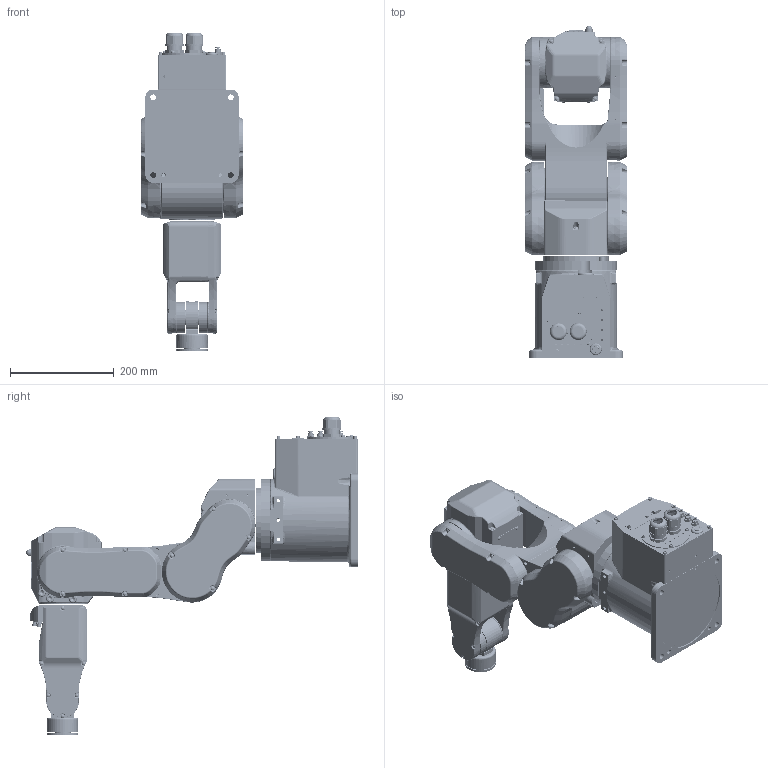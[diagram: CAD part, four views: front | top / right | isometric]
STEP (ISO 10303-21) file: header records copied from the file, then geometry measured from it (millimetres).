
FILE_DESCRIPTION((''),'2;1');
FILE_NAME('C4-A600S_ASM','2012-09-07T',('0179539'),(''),'PRO/ENGINEER BY PARAMETRIC TECHNOLOGY CORPORATION, 2007390','PRO/ENGINEER BY PARAMETRIC TECHNOLOGY CORPORATION, 2007390','');
FILE_SCHEMA(('AUTOMOTIVE_DESIGN_CC2 { 1 2 10303 214 -1 1 5 2 }'));
Products named in the file (8): C4_BASE; C4_J1; C4_J2; C4_J3; C4_J5; C4_J6; C4_J4; C4-A600S_ASM
Assembly tree (7 placements, depth 2):
  C4-A600S_ASM
    C4_BASE
    C4_J1
    C4_J2
    C4_J3
    C4_J5
    C4_J6
    C4_J4
Bounding box: 198 x 640.5 x 614.5 mm (x, y, z)
Volume: 7950411.5 mm3; surface area: 1344572.4 mm2
Topology: 7 solids, 11 shells, 5008 faces, 11865 edges, 7138 vertices
Faces by surface type: cylinder 1725, plane 1627, bspline 640, torus 468, cone 406, sphere 141, extrusion 1
Entity records: 250778 total; most frequent: CARTESIAN_POINT 102681, DIRECTION 23487, ORIENTED_EDGE 23454, EDGE_CURVE 11727, AXIS2_PLACEMENT_3D 9202, VERTEX_POINT 7138, EDGE_LOOP 5561, FILL_AREA_STYLE_COLOUR 5094
